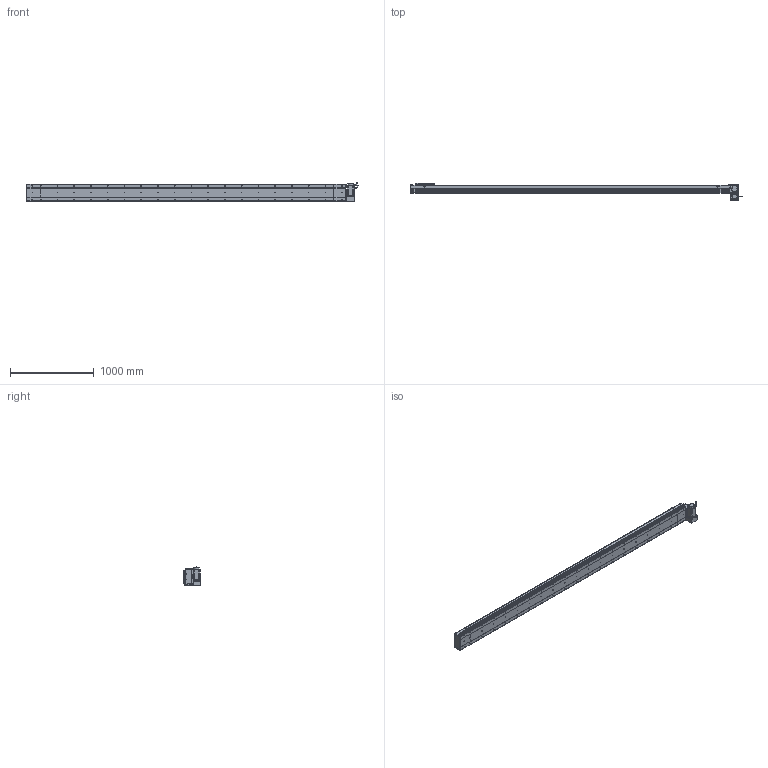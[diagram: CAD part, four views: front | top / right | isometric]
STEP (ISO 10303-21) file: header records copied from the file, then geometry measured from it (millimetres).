
FILE_DESCRIPTION (( 'STEP AP214' ), '1' );
FILE_NAME ('D20 CBH RU S3500.STEP', '2010-06-30T10:57:29', ( 'Conseil Régional Haute-Normandie' ), ( 'Conseil Régional Haute-Normandie' ), 'SwSTEP 2.0', 'SolidWorks 2010', '' );
FILE_SCHEMA (( 'AUTOMOTIVE_DESIGN' ));
Length unit declared in the file: millimetre
Products named in the file (31): Moteur motionking 90BLDC125A-640; Conecteur2_Default; Glissiere_Default; Corp S3500_Default; vis M5 L30_Default; Chariot D20_Default; Support Chariot D20_Default; vis M5 L47_Default; ecrou_Default; Conecteur_Default; Corp D20 S3500_Default; codeur 90BLDC125-640; vis M5 L15_Default; Support moteur RU_Default; Corp Tail D20 RU_Default; Plaque de Bout Head D20 RU_Default; Couvercle RU_Default; Plaque De Serrage D20 RU_Default; Rondelle Cache D20 RU_Default; Cache Support Moteur RU_Default; Couvercle_Default; Couvercle S3500_Default; D20 CBH RU S3500; Head RU_Default; corps 90BLDC125A-640; Tail D20+100_Default; Plaque de Bout Tail D20_Default; avant 90BLDC125A-640; Corp Tail D20+100_Default; Plaque De Serrage D20_Default
Assembly tree (66 placements, depth 4):
  D20 CBH RU S3500
    Head RU_Default
      vis M5 L15_Default  x12
      Plaque de Bout Head D20 RU_Default
      Plaque De Serrage D20 RU_Default
      Rondelle Cache D20 RU_Default  x3
      Moteur motionking 90BLDC125A-640
        codeur 90BLDC125-640
        corps 90BLDC125A-640
        avant 90BLDC125A-640
        Conecteur_Default
        Conecteur2_Default
      vis M5 L30_Default  x4
      ecrou_Default  x4
      Cache Support Moteur RU_Default
      vis M5 L47_Default  x4
      Corp Tail D20 RU_Default
      Support moteur RU_Default
      Couvercle RU_Default
    Corp D20 S3500_Default
      Couvercle S3500_Default
      Corp S3500_Default
    Chariot D20_Default
      vis M5 L15_Default  x8
      Glissiere_Default
      Chariot D20_Default
      Support Chariot D20_Default
    Tail D20+100_Default
      Corp Tail D20+100_Default
      vis M5 L15_Default  x6
      Couvercle_Default
      Plaque De Serrage D20_Default
      Plaque de Bout Tail D20_Default
Bounding box: 3964.45 x 209 x 229.7 mm (x, y, z)
Volume: 26399308.8 mm3; surface area: 5050225.4 mm2
Topology: 103 solids, 103 shells, 3844 faces, 9560 edges, 6214 vertices
Faces by surface type: plane 2123, bspline 806, cylinder 752, torus 91, cone 68, sphere 4
Entity records: 161494 total; most frequent: CARTESIAN_POINT 82656, ORIENTED_EDGE 15588, DIRECTION 12018, EDGE_CURVE 7794, VERTEX_POINT 5158, VECTOR 5002, LINE 5002, AXIS2_PLACEMENT_3D 3508
